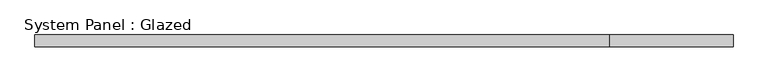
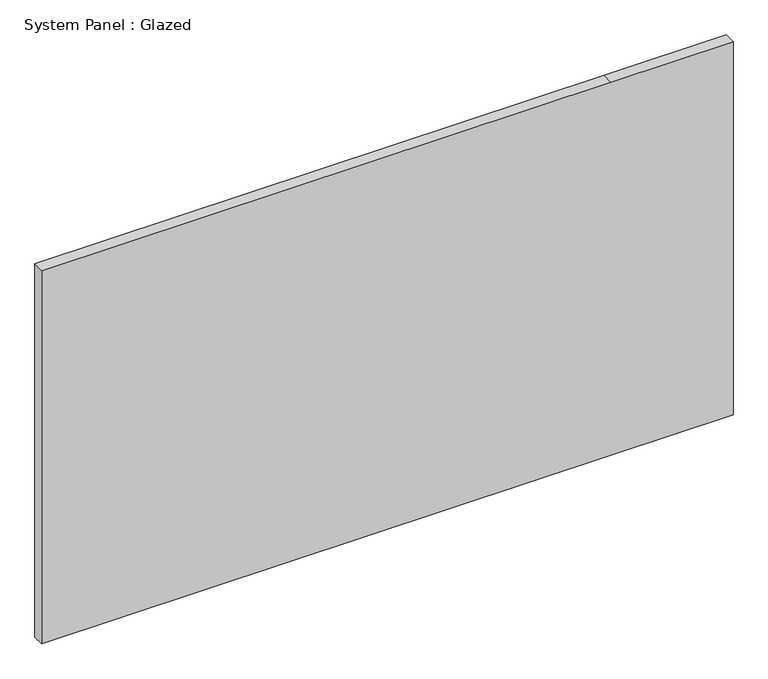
"""IFC4 building model written with IfcOpenShell, lengths in millimetres: plate geometry, System Panel : Glazed."""

from ifc_helpers import new_model, si_unit, frame, origin, place, context, project, spatial, polyline, outline, extrude, source, transform, mapped, element, save


def system_panel_glazed_62768381(model_context):
    return source(origin(), model_context, "Body", "SweptSolid", [
        extrude(outline(polyline([(0.0, -756.44375), (0.0, 488.95), (0.0, 756.44375), (863.6, 756.44375), (863.6, 488.95), (863.6, -756.44375), (0.0, -756.44375)])), frame((0.0, -44.45, 0.0), z_axis=(0.0, 1.0, 0.0), x_axis=(0.0, 0.0, 1.0)), (0.0, 0.0, 1.0), 25.4),
    ])


if __name__ == "__main__":
    model = new_model("IFC4")
    model_context = context("Model", 3, world=origin())
    ifc_project = project(units=[si_unit("LENGTHUNIT", "METRE", prefix="MILLI")], contexts=[model_context])
    site = spatial("IfcSite", under=ifc_project)
    building = spatial("IfcBuilding", under=site)
    placement = place(None, origin())
    system_panel_glazed_shape = system_panel_glazed_62768381(model_context)
    element("IfcPlate", 1, ObjectType="System Panel : Glazed", at=placement, inside=building, context=model_context, shape_type="MappedRepresentation", body=[
        mapped(system_panel_glazed_shape, transform((0.0, 0.0, 0.0), x_axis=(1.0, 0.0, 0.0), y_axis=(0.0, 1.0, 0.0), z_axis=(0.0, 0.0, 1.0))),
    ])
    save(model, "model.ifc")
